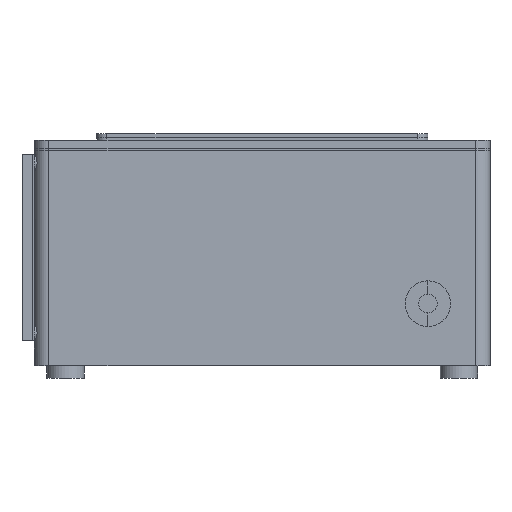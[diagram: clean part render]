
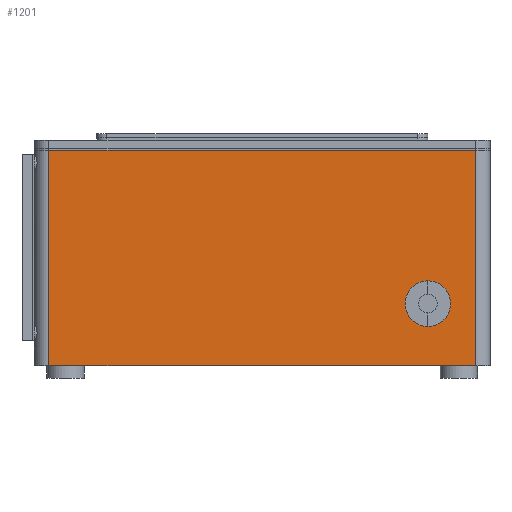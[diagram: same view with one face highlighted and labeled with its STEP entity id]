
A CAD part, front view. The second image highlights one B-rep face of the part: STEP entity #1201.
In plain terms, the highlighted planar face has unit normal (0, -1, 0).
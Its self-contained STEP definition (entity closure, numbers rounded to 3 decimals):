
#892 = VERTEX_POINT('',#893);
#893 = CARTESIAN_POINT('',(190.,0.,38.));
#899 = EDGE_CURVE('',#892,#892,#900,.T.);
#900 = CIRCLE('',#901,8.);
#901 = AXIS2_PLACEMENT_3D('',#902,#903,#904);
#902 = CARTESIAN_POINT('',(190.,0.,30.));
#903 = DIRECTION('',(0.,1.,0.));
#904 = DIRECTION('',(0.,-0.,1.));
#926 = VERTEX_POINT('',#927);
#927 = CARTESIAN_POINT('',(7.,0.,0.));
#934 = EDGE_CURVE('',#926,#935,#937,.T.);
#935 = VERTEX_POINT('',#936);
#936 = CARTESIAN_POINT('',(7.,0.,104.));
#937 = LINE('',#938,#939);
#938 = CARTESIAN_POINT('',(7.,0.,0.));
#939 = VECTOR('',#940,1.);
#940 = DIRECTION('',(0.,0.,1.));
#1116 = EDGE_CURVE('',#926,#1117,#1119,.T.);
#1117 = VERTEX_POINT('',#1118);
#1118 = CARTESIAN_POINT('',(213.,0.,0.));
#1119 = LINE('',#1120,#1121);
#1120 = CARTESIAN_POINT('',(0.,0.,0.));
#1121 = VECTOR('',#1122,1.);
#1122 = DIRECTION('',(1.,0.,-0.));
#1201 = ADVANCED_FACE('',(#1202,#1220),#1223,.F.);
#1202 = FACE_BOUND('',#1203,.F.);
#1203 = EDGE_LOOP('',(#1204,#1205,#1206,#1214));
#1204 = ORIENTED_EDGE('',*,*,#1116,.F.);
#1205 = ORIENTED_EDGE('',*,*,#934,.T.);
#1206 = ORIENTED_EDGE('',*,*,#1207,.T.);
#1207 = EDGE_CURVE('',#935,#1208,#1210,.T.);
#1208 = VERTEX_POINT('',#1209);
#1209 = CARTESIAN_POINT('',(213.,0.,104.));
#1210 = LINE('',#1211,#1212);
#1211 = CARTESIAN_POINT('',(0.,0.,104.));
#1212 = VECTOR('',#1213,1.);
#1213 = DIRECTION('',(1.,0.,-0.));
#1214 = ORIENTED_EDGE('',*,*,#1215,.F.);
#1215 = EDGE_CURVE('',#1117,#1208,#1216,.T.);
#1216 = LINE('',#1217,#1218);
#1217 = CARTESIAN_POINT('',(213.,0.,0.));
#1218 = VECTOR('',#1219,1.);
#1219 = DIRECTION('',(0.,0.,1.));
#1220 = FACE_BOUND('',#1221,.F.);
#1221 = EDGE_LOOP('',(#1222));
#1222 = ORIENTED_EDGE('',*,*,#899,.F.);
#1223 = PLANE('',#1224);
#1224 = AXIS2_PLACEMENT_3D('',#1225,#1226,#1227);
#1225 = CARTESIAN_POINT('',(0.,0.,0.));
#1226 = DIRECTION('',(-0.,1.,0.));
#1227 = DIRECTION('',(0.,0.,1.));
